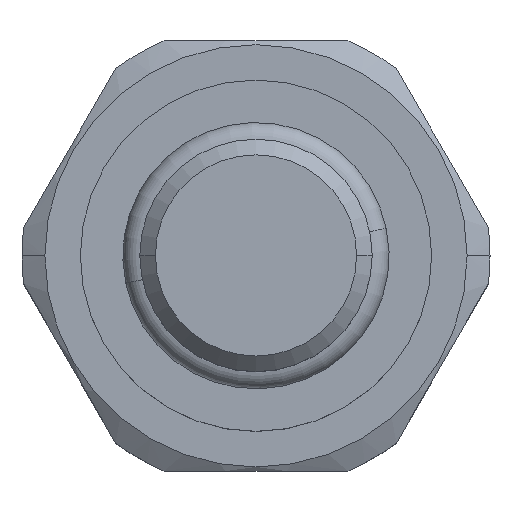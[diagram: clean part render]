
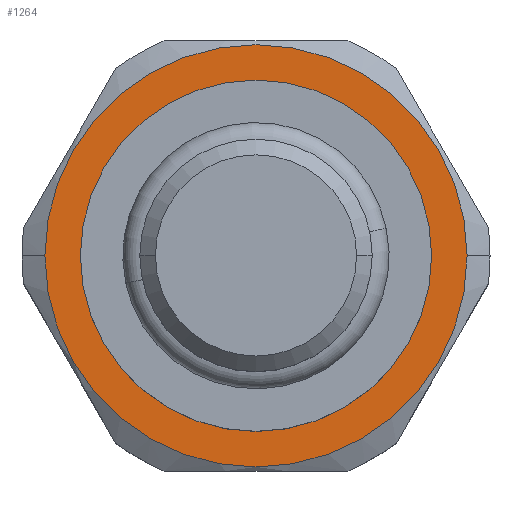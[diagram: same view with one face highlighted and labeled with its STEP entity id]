
A CAD part, top view. The second image highlights one B-rep face of the part: STEP entity #1264.
In plain terms, the highlighted planar face has unit normal (0, 0, 1).
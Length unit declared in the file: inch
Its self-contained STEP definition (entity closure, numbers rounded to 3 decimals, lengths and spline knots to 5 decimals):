
#735=CARTESIAN_POINT('',(0.,0.,1.96));
#736=DIRECTION('',(0.,0.,-1.));
#737=DIRECTION('',(-1.,0.,0.));
#738=AXIS2_PLACEMENT_3D('',#735,#736,#737);
#740=CARTESIAN_POINT('',(0.,0.,1.96));
#741=DIRECTION('',(0.,0.,-1.));
#742=DIRECTION('',(1.,0.,0.));
#743=AXIS2_PLACEMENT_3D('',#740,#741,#742);
#1045=CARTESIAN_POINT('',(-0.3925,0.,1.96));
#1046=CARTESIAN_POINT('',(0.3925,0.,1.96));
#1047=VERTEX_POINT('',#1045);
#1048=VERTEX_POINT('',#1046);
#1253=CARTESIAN_POINT('',(0.,0.,1.96));
#1254=DIRECTION('',(0.,0.,-1.));
#1255=DIRECTION('',(1.,0.,0.));
#1256=AXIS2_PLACEMENT_3D('',#1253,#1254,#1255);
#1257=PLANE('',#1256);
#1259=ORIENTED_EDGE('',*,*,#1258,.T.);
#1261=ORIENTED_EDGE('',*,*,#1260,.T.);
#1262=EDGE_LOOP('',(#1259,#1261));
#1263=FACE_OUTER_BOUND('',#1262,.F.);
#1264=ADVANCED_FACE('',(#1263),#1257,.F.);
#739=CIRCLE('',#738,0.3925);
#744=CIRCLE('',#743,0.3925);
#1258=EDGE_CURVE('',#1047,#1048,#739,.T.);
#1260=EDGE_CURVE('',#1048,#1047,#744,.T.);
